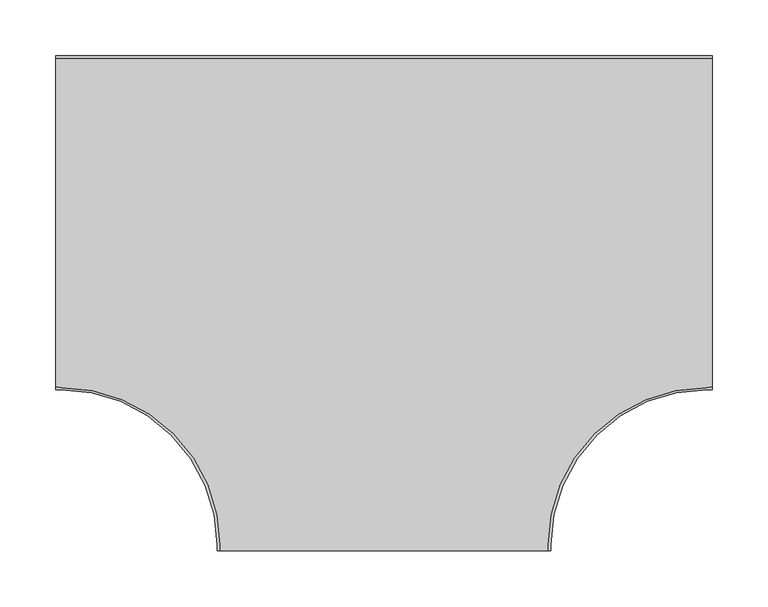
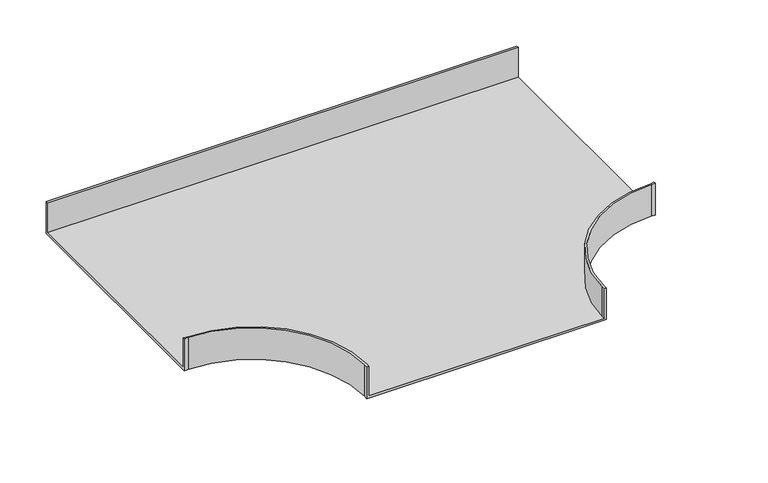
"""IFC4 building model written with IfcOpenShell, lengths in millimetres: cable carrier fitting geometry, BAKS_Horizontal tee radius : TKPJ_H42."""

from ifc_helpers import new_model, si_unit, frame, origin, place, context, project, spatial, polyline, circle_curve, source, transform, mapped, element, save
from ifc_brep_helpers import plane_surface, cylinder_surface, revolved_surface, advanced_brep


def cable_carrier_fitting_93b13c26(model_context):
    return source(origin(), model_context, "Body", "AdvancedBrep", [
        advanced_brep(
        [(-150.0, -290.0, 21.0), (-150.0, -295.0, 21.0), (-147.46, -295.0, 21.0), (-147.46, -290.0, 21.0), (-290.0, -148.503822, 21.0), (-295.0, -147.46, 21.0), (-295.0, -150.0, 21.0), (-290.0, -150.0, 21.0), (150.0, -290.0, 21.0), (290.0, -150.0, 21.0), (295.0, -150.0, 21.0), (295.0, -147.46, 21.0), (290.0, -148.503822, 21.0), (147.46, -290.0, 21.0), (147.46, -295.0, 21.0), (150.0, -295.0, 21.0), (295.0, 150.0, 21.0), (-295.0, 150.0, 21.0), (-295.0, 147.46, 21.0), (295.0, 147.46, 21.0), (-150.0, -290.0, -21.0), (-290.0, -150.0, -21.0), (-295.0, -150.0, -21.0), (-295.0, 150.0, -21.0), (295.0, 150.0, -21.0), (295.0, -150.0, -21.0), (290.0, -150.0, -21.0), (150.0, -290.0, -21.0), (150.0, -295.0, -21.0), (-150.0, -295.0, -21.0), (-150.0, -290.0, -18.46), (147.46, -295.0, -18.46), (-147.46, -295.0, -18.46), (-147.46, -290.0, -18.46), (-290.0, -148.503822, -18.46), (-295.0, -147.46, -18.46), (-295.0, 147.46, -18.46), (-290.0, -150.0, -18.46), (150.0, -290.0, -18.46), (290.0, -150.0, -18.46), (295.0, 147.46, -18.46), (295.0, -147.46, -18.46), (290.0, -148.503822, -18.46), (147.46, -290.0, -18.46)],
        [
            (0, 1),
            (1, 2),
            (2, 3),
            (3, 4, circle_curve(frame((-288.96, -290.0, 21.0), z_axis=(0.0, 0.0, 1.0), x_axis=(1.0, 0.0, 0.0)), 141.5)),
            (4, 5),
            (5, 6),
            (6, 7),
            (7, 0, circle_curve(frame((-290.0, -290.0, 21.0), z_axis=(0.0, 0.0, -1.0), x_axis=(1.0, 0.0, 0.0)), 140.0)),
            (8, 9, circle_curve(frame((290.0, -290.0, 21.0), z_axis=(0.0, 0.0, -1.0), x_axis=(1.0, 0.0, 0.0)), 140.0)),
            (9, 10),
            (10, 11),
            (11, 12),
            (12, 13, circle_curve(frame((288.96, -290.0, 21.0), z_axis=(0.0, 0.0, 1.0), x_axis=(1.0, 0.0, 0.0)), 141.5)),
            (13, 14),
            (14, 15),
            (15, 8),
            (16, 17),
            (17, 18),
            (18, 19),
            (19, 16),
            (20, 21, circle_curve(frame((-290.0, -290.0, -21.0), z_axis=(0.0, 0.0, 1.0), x_axis=(1.0, 0.0, 0.0)), 140.0)),
            (21, 22),
            (22, 23),
            (23, 24),
            (24, 25),
            (25, 26),
            (26, 27, circle_curve(frame((290.0, -290.0, -21.0), z_axis=(0.0, 0.0, 1.0), x_axis=(1.0, 0.0, 0.0)), 140.0)),
            (27, 28),
            (28, 29),
            (29, 20),
            (29, 1),
            (0, 30),
            (30, 20),
            (28, 15),
            (14, 31),
            (31, 32),
            (32, 2),
            (32, 33),
            (33, 3),
            (33, 34, circle_curve(frame((-288.96, -290.0, -18.46), z_axis=(0.0, 0.0, 1.0), x_axis=(1.0, 0.0, 0.0)), 141.5)),
            (34, 4),
            (34, 35),
            (35, 5),
            (35, 36),
            (36, 18),
            (17, 23),
            (22, 6),
            (21, 37),
            (37, 7),
            (8, 38),
            (38, 27),
            (26, 39),
            (39, 9),
            (25, 10),
            (24, 16),
            (19, 40),
            (40, 41),
            (41, 11),
            (41, 42),
            (42, 12),
            (42, 43, circle_curve(frame((288.96, -290.0, -18.46), z_axis=(0.0, 0.0, 1.0), x_axis=(1.0, 0.0, 0.0)), 141.5)),
            (43, 13),
            (43, 31),
            (36, 40),
        ],
        [
            plane_surface(frame((-150.0, -290.0, 21.0), z_axis=(0.0, 0.0, 1.0), x_axis=(0.0, -1.0, 0.0))),
            plane_surface(frame((-150.0, -290.0, -21.0), z_axis=(0.0, 0.0, -1.0), x_axis=(0.0, 1.0, 0.0))),
            plane_surface(frame((-150.0, -290.0, 21.0), z_axis=(-1.0, 0.0, 0.0), x_axis=(0.0, 0.0, -1.0))),
            plane_surface(frame((-150.0, -295.0, 21.0), z_axis=(0.0, -1.0, 0.0), x_axis=(0.0, 0.0, -1.0))),
            plane_surface(frame((-147.46, -295.0, 21.0), z_axis=(1.0, 0.0, 0.0), x_axis=(0.0, 0.0, -1.0))),
            cylinder_surface(frame((-288.96, -290.0, -21.0), z_axis=(0.0, 0.0, 1.0), x_axis=(1.0, 0.0, 0.0)), 141.5),
            plane_surface(frame((-290.0, -148.503822, 21.0), z_axis=(0.2043586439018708, 0.9788960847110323, 0.0), x_axis=(0.0, 0.0, -1.0))),
            plane_surface(frame((-295.0, -147.46, 21.0), z_axis=(-1.0, 0.0, 0.0), x_axis=(0.0, 0.0, -1.0))),
            plane_surface(frame((-295.0, -150.0, 21.0), z_axis=(0.0, -1.0, 0.0), x_axis=(0.0, 0.0, -1.0))),
            revolved_surface(polyline([(-150.0, -290.0, -21.0), (-150.0, -290.0, 21.0)]), (-290.0, -290.0, -21.0), (0.0, 0.0, -1.0)),
            revolved_surface(polyline([(430.0, -290.0, -21.0), (430.0, -290.0, 21.0)]), (290.0, -290.0, 0.0), (0.0, 0.0, -1.0)),
            plane_surface(frame((290.0, -150.0, 21.0), z_axis=(0.0, -1.0, 0.0), x_axis=(0.0, 0.0, -1.0))),
            plane_surface(frame((295.0, -150.0, 21.0), z_axis=(1.0, 0.0, 0.0), x_axis=(0.0, 0.0, -1.0))),
            plane_surface(frame((295.0, -147.46, 21.0), z_axis=(-0.20435864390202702, 0.9788960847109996, 0.0), x_axis=(0.0, 0.0, -1.0))),
            cylinder_surface(frame((288.96, -290.0, 0.0), z_axis=(0.0, 0.0, 1.0), x_axis=(1.0, 0.0, 0.0)), 141.5),
            plane_surface(frame((147.46, -290.0, 21.0), z_axis=(-1.0, 0.0, 0.0), x_axis=(0.0, 0.0, -1.0))),
            plane_surface(frame((150.0, -295.0, 21.0), z_axis=(1.0, 0.0, 0.0), x_axis=(0.0, 0.0, -1.0))),
            plane_surface(frame((295.0, 150.0, 21.0), z_axis=(0.0, 1.0, 0.0), x_axis=(0.0, 0.0, -1.0))),
            plane_surface(frame((-295.0, 147.46, 21.0), z_axis=(0.0, -1.0, 0.0), x_axis=(0.0, 0.0, -1.0))),
            plane_surface(frame((-150.0, -290.0, -18.46), z_axis=(0.0, 0.0, 1.0), x_axis=(0.0, -1.0, 0.0))),
        ],
        [
            (0, [[1, 2, 3, 4, 5, 6, 7, 8]]),
            (0, [[9, 10, 11, 12, 13, 14, 15, 16]]),
            (0, [[17, 18, 19, 20]]),
            (1, [[21, 22, 23, 24, 25, 26, 27, 28, 29, 30]]),
            (2, [[31, -1, 32, 33, -30]]),
            (3, [[-2, -31, -29, 34, -15, 35, 36, 37]]),
            (4, [[-3, -37, 38, 39]]),
            (5, [[-4, -39, 40, 41]]),
            (6, [[-5, -41, 42, 43]]),
            (7, [[-6, -43, 44, 45, -18, 46, -23, 47]]),
            (8, [[-7, -47, -22, 48, 49]]),
            (9, [[-8, -49, -48, -21, -33, -32]]),
            (10, [[-9, 50, 51, -27, 52, 53]]),
            (11, [[54, -10, -53, -52, -26]]),
            (12, [[-11, -54, -25, 55, -20, 56, 57, 58]]),
            (13, [[-12, -58, 59, 60]]),
            (14, [[-13, -60, 61, 62]]),
            (15, [[-14, -62, 63, -35]]),
            (16, [[-16, -34, -28, -51, -50]]),
            (17, [[-46, -17, -55, -24]]),
            (18, [[-19, -45, 64, -56]]),
            (19, [[-36, -63, -61, -59, -57, -64, -44, -42, -40, -38]]),
        ],
    ),
    ])


if __name__ == "__main__":
    model = new_model("IFC4")
    model_context = context("Model", 3, world=origin())
    ifc_project = project(units=[si_unit("LENGTHUNIT", "METRE", prefix="MILLI")], contexts=[model_context])
    site = spatial("IfcSite", under=ifc_project)
    building = spatial("IfcBuilding", under=site)
    placement = place(None, origin())
    cable_carrier_fitting_shape = cable_carrier_fitting_93b13c26(model_context)
    element("IfcCableCarrierFitting", 1, ObjectType="BAKS_Horizontal tee radius : TKPJ_H42", at=placement, inside=building, context=model_context, shape_type="MappedRepresentation", body=[
        mapped(cable_carrier_fitting_shape, transform((0.0, 0.0, 0.0), x_axis=(1.0, 0.0, 0.0), y_axis=(0.0, 1.0, 0.0), z_axis=(0.0, 0.0, 1.0))),
    ])
    save(model, "model.ifc")
